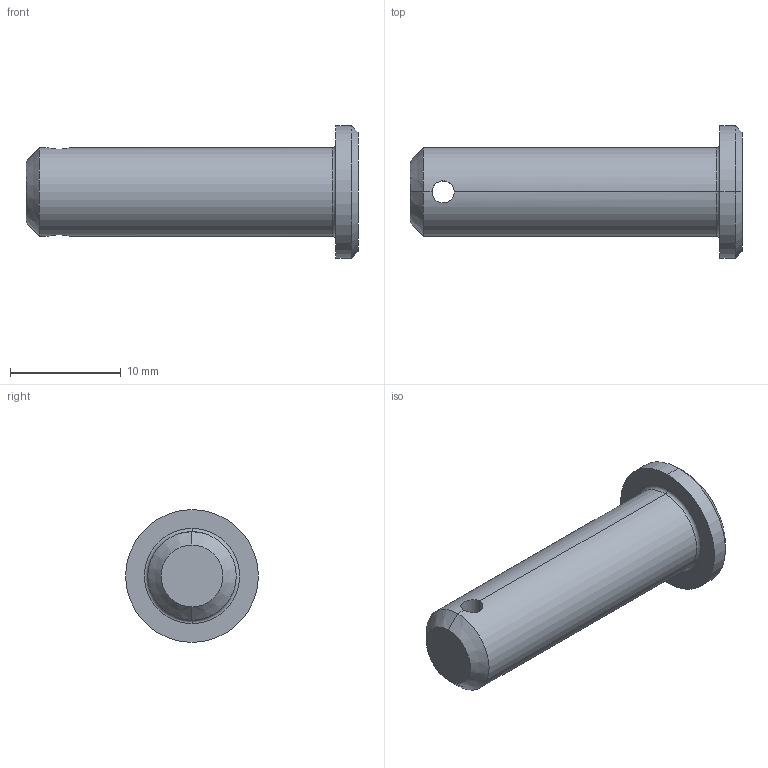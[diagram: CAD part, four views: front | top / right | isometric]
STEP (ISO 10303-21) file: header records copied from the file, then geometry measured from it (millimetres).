
FILE_DESCRIPTION (( 'STEP AP203' ), '1' );
FILE_NAME ('Wiberger-sms2360_8x28.step', '2012-10-09T08:58:52', ( 'Magnus' ), ( 'Wiberger' ), 'SwSTEP 2.0', 'SolidWorks 2011', '' );
FILE_SCHEMA (( 'CONFIG_CONTROL_DESIGN' ));
Length unit declared in the file: millimetre
Products named in the file (1): Wiberger-sms2360_8x28
Bounding box: 30 x 12 x 12 mm (x, y, z)
Volume: 1586.3 mm3; surface area: 1012 mm2
Topology: 1 solids, 1 shells, 15 faces, 32 edges, 18 vertices
Faces by surface type: cylinder 6, cone 4, plane 3, torus 2
Entity records: 543 total; most frequent: CARTESIAN_POINT 134, DIRECTION 76, ORIENTED_EDGE 64, AXIS2_PLACEMENT_3D 32, EDGE_CURVE 32, VERTEX_POINT 18, EDGE_LOOP 16, CIRCLE 16
